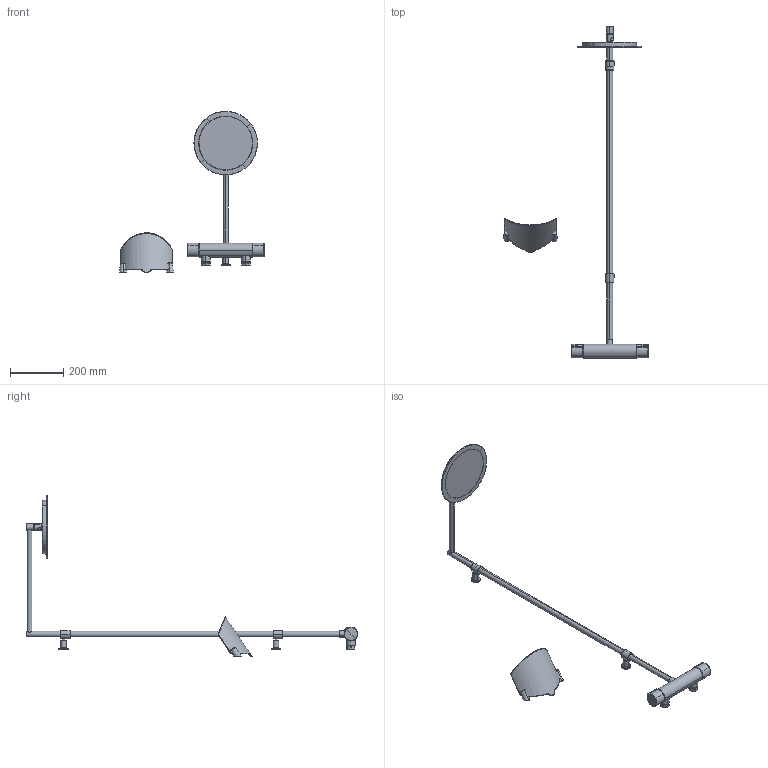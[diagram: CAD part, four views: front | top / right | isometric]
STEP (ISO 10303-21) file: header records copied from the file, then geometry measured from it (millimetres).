
FILE_DESCRIPTION (( 'STEP AP203' ), '1' );
FILE_NAME ('2890.STEP', '2018-07-12T03:31:52', ( '' ), ( '' ), 'SwSTEP 2.0', 'SolidWorks 2016', '' );
FILE_SCHEMA (( 'CONFIG_CONTROL_DESIGN' ));
Length unit declared in the file: millimetre
Products named in the file (1): 2890
Bounding box: 539.83 x 1241.4 x 603.58 mm (x, y, z)
Volume: 2158850.8 mm3; surface area: 386954.2 mm2
Topology: 19 solids, 20 shells, 414 faces, 888 edges, 531 vertices
Faces by surface type: cylinder 99, bspline 95, plane 93, torus 62, cone 53, sphere 12
Entity records: 19972 total; most frequent: CARTESIAN_POINT 11682, ORIENTED_EDGE 1756, DIRECTION 1624, EDGE_CURVE 878, AXIS2_PLACEMENT_3D 714, VERTEX_POINT 531, EDGE_LOOP 441, ADVANCED_FACE 414
